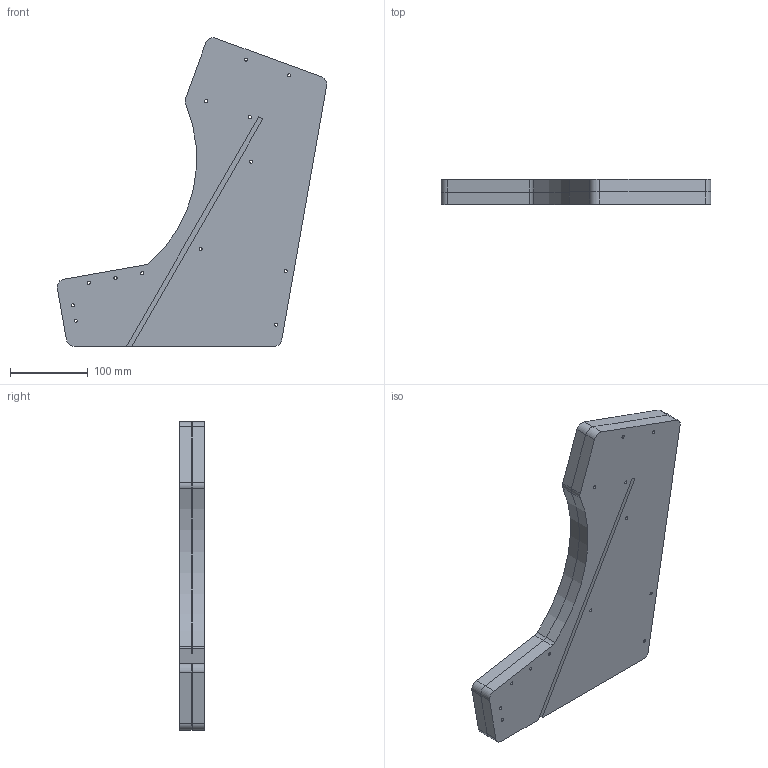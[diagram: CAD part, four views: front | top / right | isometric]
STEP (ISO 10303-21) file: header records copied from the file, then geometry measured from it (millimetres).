
FILE_DESCRIPTION(('FreeCAD Model'),'2;1');
FILE_NAME('/home/bluelambda/Documents/Arcade/cad/step/side.step', '2016-05-08T11:19:57',('Author'),(''), 'Open CASCADE STEP processor 6.9','FreeCAD','Unknown');
FILE_SCHEMA(('AUTOMOTIVE_DESIGN { 1 0 10303 214 1 1 1 1 }'));
Length unit declared in the file: millimetre
Products named in the file (2): side_right; side_left
Bounding box: 347.11 x 32 x 397.18 mm (x, y, z)
Volume: 2300076.2 mm3; surface area: 347294.7 mm2
Topology: 2 solids, 2 shells, 66 faces, 186 edges, 124 vertices
Faces by surface type: cylinder 42, plane 24
Full cylindrical faces by diameter (mm): 4 x26
Entity records: 4771 total; most frequent: CARTESIAN_POINT 1091, DIRECTION 644, ORIENTED_EDGE 372, PCURVE 372, DEFINITIONAL_REPRESENTATION 372, LINE 300, VECTOR 300, EDGE_CURVE 186
